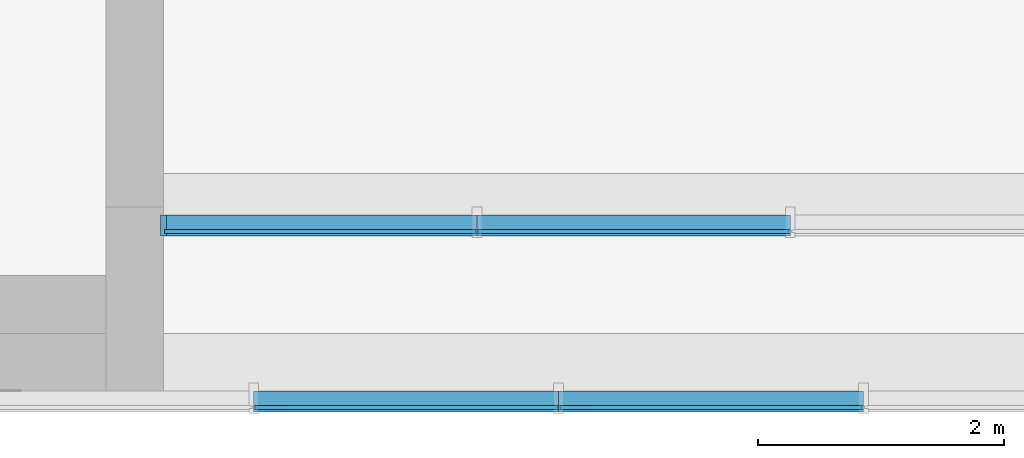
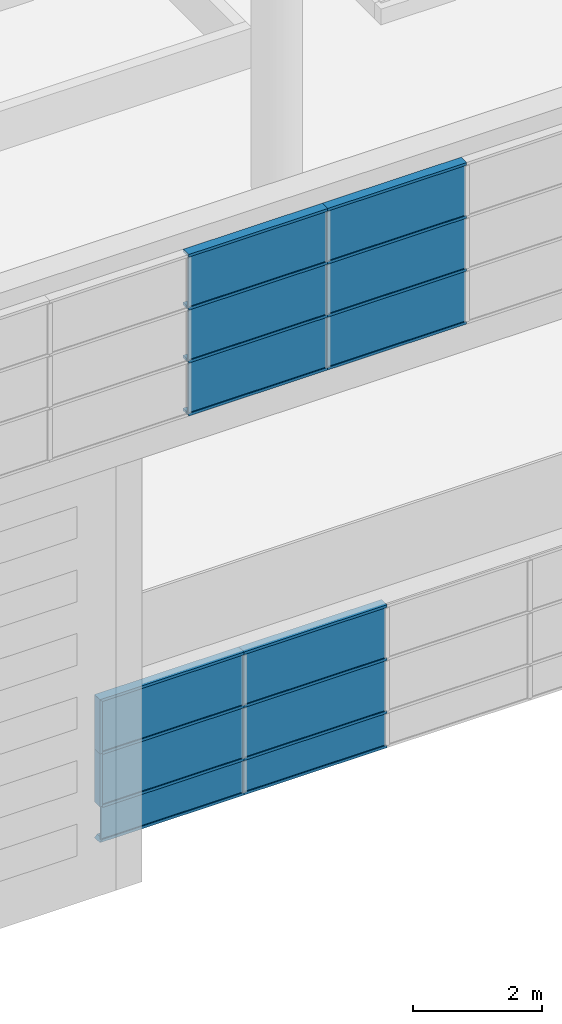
# One storey, part 21 of 105: 30 building element parts, 2 elements without a shape of their own.
"""IFC4 building model written with IfcOpenShell, lengths in millimetres."""

from ifc_helpers import new_model, entity, si_unit, converted_unit, derived_unit, direction, frame, origin_with_axes, place, context, subcontext, project, spatial, triangles, material, element, aggregate, save


model = new_model("IFC4")

# Units and contexts
model_context = context("Model", 3, precision=1e-05, world=origin_with_axes(), true_north=direction((0.0, 1.0)))
body_context = subcontext(model_context, "Body", "Model", "MODEL_VIEW")
ifc_project = project(units=[si_unit("LENGTHUNIT", "METRE", prefix="MILLI"), si_unit("AREAUNIT", "SQUARE_METRE"), si_unit("VOLUMEUNIT", "CUBIC_METRE"), converted_unit("PLANEANGLEUNIT", "DEGREE", entity("IfcLengthMeasure", 0.017453), si_unit("PLANEANGLEUNIT", "RADIAN"), dimensions=[0, 0, 0, 0, 0, 0, 0]), si_unit("SOLIDANGLEUNIT", "STERADIAN"), si_unit("MASSUNIT", "GRAM"), si_unit("TIMEUNIT", "SECOND"), si_unit("THERMODYNAMICTEMPERATUREUNIT", "DEGREE_CELSIUS"), si_unit("LUMINOUSINTENSITYUNIT", "LUMEN"), si_unit("POWERUNIT", "WATT"), derived_unit("THERMALTRANSMITTANCEUNIT", [(si_unit("POWERUNIT", "WATT"), 1), (si_unit("THERMODYNAMICTEMPERATUREUNIT", "KELVIN"), -1), (si_unit("AREAUNIT", "SQUARE_METRE"), -1)])], contexts=[model_context])

# Site, building, storey
site_placement = place(None, origin_with_axes())
site = spatial("IfcSite", under=ifc_project, at=site_placement, Name="Default Site", CompositionType="ELEMENT")
building_placement = place(site_placement, origin_with_axes())
building = spatial("IfcBuilding", under=site, at=building_placement, Name="Default Building", CompositionType="ELEMENT")
storey_placement = place(building_placement, origin_with_axes())
storey = spatial("IfcBuildingStorey", under=building, at=storey_placement, Name="OG - Story", CompositionType="ELEMENT", Elevation=0.0)

# Curtain wall, building element parts
curtain_wall_1_placement = place(storey_placement, origin_with_axes())
curtain_wall_1 = element("IfcCurtainWall", 1, at=curtain_wall_1_placement, inside=storey, Name="Fassade-001", PredefinedType="NOTDEFINED")
ifc_material_1 = material(Name="Normalglas")
building_element_part_1_placement = place(curtain_wall_1_placement, frame((52496.845873, -51289.262838, 0.0), z_axis=(0.0, 0.0, 1.0), x_axis=(1.0, 0.0, 0.0)))
building_element_part_1 = element("IfcBuildingElementPart", 2, at=building_element_part_1_placement, material=ifc_material_1, Name="Normalglas", PredefinedType="NOTDEFINED", context=body_context, shape_type="Tessellation", body=[
    triangles([(1265.455, 15.0, 645.0), (-1270.454, 15.0, 645.0), (-1270.454, -14.999, 645.0), (1265.455, -14.999, 645.0), (1265.455, 15.0, 5.0), (-1270.454, 15.0, 5.0), (-1270.454, -14.999, 5.0), (1265.455, -14.999, 5.0)], [[1, 2, 3], [1, 3, 4], [1, 5, 6], [1, 6, 2], [2, 6, 7], [2, 7, 3], [4, 3, 7], [4, 7, 8], [5, 1, 4], [5, 4, 8], [6, 5, 8], [6, 8, 7]], closed=False),
])
building_element_part_2_placement = place(curtain_wall_1_placement, frame((52496.845873, -51289.262838, 0.0), z_axis=(0.0, 0.0, 1.0), x_axis=(1.0, 0.0, 0.0)))
building_element_part_2 = element("IfcBuildingElementPart", 3, at=building_element_part_2_placement, material=ifc_material_1, Name="Normalglas", PredefinedType="NOTDEFINED", context=body_context, shape_type="Tessellation", body=[
    triangles([(3816.364, 15.0, 645.0), (1285.455, 15.0, 645.0), (1285.455, -14.999, 645.0), (3816.364, -14.999, 645.0), (3816.364, 15.0, 5.0), (1285.455, 15.0, 5.0), (1285.455, -14.999, 5.0), (3816.364, -14.999, 5.0)], [[1, 2, 3], [1, 3, 4], [1, 5, 6], [1, 6, 2], [2, 6, 7], [2, 7, 3], [4, 3, 7], [4, 7, 8], [5, 1, 4], [5, 4, 8], [6, 5, 8], [6, 8, 7]], closed=False),
])
building_element_part_3_placement = place(curtain_wall_1_placement, frame((52496.845873, -51289.262838, 0.0), z_axis=(0.0, 0.0, 1.0), x_axis=(1.0, 0.0, 0.0)))
building_element_part_3 = element("IfcBuildingElementPart", 4, at=building_element_part_3_placement, material=ifc_material_1, Name="Normalglas", PredefinedType="NOTDEFINED", context=body_context, shape_type="Tessellation", body=[
    triangles([(1265.455, 15.0, 1645.0), (-1270.454, 15.0, 1645.0), (-1270.454, -14.999, 1645.0), (1265.455, -14.999, 1645.0), (1265.455, 15.0, 655.0), (-1270.454, 15.0, 655.0), (-1270.454, -14.999, 655.0), (1265.455, -14.999, 655.0)], [[1, 2, 3], [1, 3, 4], [1, 5, 6], [1, 6, 2], [2, 6, 7], [2, 7, 3], [4, 3, 7], [4, 7, 8], [5, 1, 4], [5, 4, 8], [6, 5, 8], [6, 8, 7]], closed=False),
])
building_element_part_4_placement = place(curtain_wall_1_placement, frame((52496.845873, -51289.262838, 0.0), z_axis=(0.0, 0.0, 1.0), x_axis=(1.0, 0.0, 0.0)))
building_element_part_4 = element("IfcBuildingElementPart", 5, at=building_element_part_4_placement, material=ifc_material_1, Name="Normalglas", PredefinedType="NOTDEFINED", context=body_context, shape_type="Tessellation", body=[
    triangles([(3816.364, 15.0, 1645.0), (1285.455, 15.0, 1645.0), (1285.455, -14.999, 1645.0), (3816.364, -14.999, 1645.0), (3816.364, 15.0, 655.0), (1285.455, 15.0, 655.0), (1285.455, -14.999, 655.0), (3816.364, -14.999, 655.0)], [[1, 2, 3], [1, 3, 4], [1, 5, 6], [1, 6, 2], [2, 6, 7], [2, 7, 3], [4, 3, 7], [4, 7, 8], [5, 1, 4], [5, 4, 8], [6, 5, 8], [6, 8, 7]], closed=False),
])
building_element_part_5_placement = place(curtain_wall_1_placement, frame((52496.845873, -51289.262838, 0.0), z_axis=(0.0, 0.0, 1.0), x_axis=(1.0, 0.0, 0.0)))
building_element_part_5 = element("IfcBuildingElementPart", 6, at=building_element_part_5_placement, material=ifc_material_1, Name="Normalglas", PredefinedType="NOTDEFINED", context=body_context, shape_type="Tessellation", body=[
    triangles([(1265.455, 15.0, 2645.0), (-1270.454, 15.0, 2645.0), (-1270.454, -14.999, 2645.0), (1265.455, -14.999, 2645.0), (1265.455, 15.0, 1655.0), (-1270.454, 15.0, 1655.0), (-1270.454, -14.999, 1655.0), (1265.455, -14.999, 1655.0)], [[1, 2, 3], [1, 3, 4], [1, 5, 6], [1, 6, 2], [2, 6, 7], [2, 7, 3], [4, 3, 7], [4, 7, 8], [5, 1, 4], [5, 4, 8], [6, 5, 8], [6, 8, 7]], closed=False),
])
building_element_part_6_placement = place(curtain_wall_1_placement, frame((52496.845873, -51289.262838, 0.0), z_axis=(0.0, 0.0, 1.0), x_axis=(1.0, 0.0, 0.0)))
building_element_part_6 = element("IfcBuildingElementPart", 7, at=building_element_part_6_placement, material=ifc_material_1, Name="Normalglas", PredefinedType="NOTDEFINED", context=body_context, shape_type="Tessellation", body=[
    triangles([(3816.364, 15.0, 2645.0), (1285.455, 15.0, 2645.0), (1285.455, -14.999, 2645.0), (3816.364, -14.999, 2645.0), (3816.364, 15.0, 1655.0), (1285.455, 15.0, 1655.0), (1285.455, -14.999, 1655.0), (3816.364, -14.999, 1655.0)], [[1, 2, 3], [1, 3, 4], [1, 5, 6], [1, 6, 2], [2, 6, 7], [2, 7, 3], [4, 3, 7], [4, 7, 8], [5, 1, 4], [5, 4, 8], [6, 5, 8], [6, 8, 7]], closed=False),
])
ifc_material_2 = material(Name="Blech")
building_element_part_7_placement = place(curtain_wall_1_placement, frame((52496.845873, -51289.262838, 0.0), z_axis=(0.0, 0.0, 1.0), x_axis=(1.0, 0.0, 0.0)))
building_element_part_7 = element("IfcBuildingElementPart", 8, at=building_element_part_7_placement, material=ifc_material_2, Name="Blech", PredefinedType="NOTDEFINED", context=body_context, shape_type="Tessellation", body=[
    triangles([(1275.455, 15.0, 25.0), (1275.455, 133.0, 25.0), (1275.455, 15.0, 5.0), (1275.455, 133.0, -24.999), (1275.455, -14.999, 5.0), (1275.455, -34.999, -24.999), (1275.455, -14.999, 25.0), (1275.455, -34.999, 25.0), (-1270.454, 15.0, 5.0), (-1270.454, -14.999, 5.0), (-1250.454, -14.999, 25.0), (-1250.454, -34.999, 25.0), (-1300.454, -34.999, -24.999), (-1300.454, 133.0, -24.999), (-1250.454, 133.0, 25.0), (-1250.454, 15.0, 25.0)], [[1, 2, 3], [3, 2, 4], [3, 4, 5], [5, 4, 6], [5, 6, 7], [7, 6, 8], [5, 3, 9], [5, 9, 10], [11, 7, 5], [11, 5, 10], [7, 11, 12], [7, 12, 8], [6, 8, 12], [6, 12, 13], [4, 6, 13], [4, 13, 14], [2, 4, 14], [2, 14, 15], [16, 1, 2], [16, 2, 15], [3, 1, 16], [3, 16, 9], [16, 15, 9], [9, 15, 14], [9, 14, 10], [10, 14, 13], [10, 13, 11], [11, 13, 12]], closed=False),
])
building_element_part_8_placement = place(curtain_wall_1_placement, frame((52496.845873, -51289.262838, 0.0), z_axis=(0.0, 0.0, 1.0), x_axis=(1.0, 0.0, 0.0)))
building_element_part_8 = element("IfcBuildingElementPart", 9, at=building_element_part_8_placement, material=ifc_material_2, Name="Blech", PredefinedType="NOTDEFINED", context=body_context, shape_type="Tessellation", body=[
    triangles([(3826.364, 15.0, 25.0), (3826.364, 133.0, 25.0), (3826.364, 15.0, 5.0), (3826.364, 133.0, -24.999), (3826.364, -14.999, 5.0), (3826.364, -34.999, -24.999), (3826.364, -14.999, 25.0), (3826.364, -34.999, 25.0), (1275.455, 15.0, 5.0), (1275.455, -14.999, 5.0), (1275.455, -14.999, 25.0), (1275.455, -34.999, 25.0), (1275.455, -34.999, -24.999), (1275.455, 133.0, -24.999), (1275.455, 133.0, 25.0), (1275.455, 15.0, 25.0)], [[1, 2, 3], [3, 2, 4], [3, 4, 5], [5, 4, 6], [5, 6, 7], [7, 6, 8], [5, 3, 9], [5, 9, 10], [11, 7, 5], [11, 5, 10], [7, 11, 12], [7, 12, 8], [13, 6, 8], [13, 8, 12], [14, 4, 6], [14, 6, 13], [15, 2, 4], [15, 4, 14], [16, 1, 2], [16, 2, 15], [3, 1, 16], [3, 16, 9], [16, 15, 9], [9, 15, 14], [9, 14, 10], [10, 14, 13], [10, 13, 11], [11, 13, 12]], closed=False),
])
building_element_part_9_placement = place(curtain_wall_1_placement, frame((52496.845873, -51289.262838, 0.0), z_axis=(0.0, 0.0, 1.0), x_axis=(1.0, 0.0, 0.0)))
building_element_part_9 = element("IfcBuildingElementPart", 10, at=building_element_part_9_placement, material=ifc_material_2, Name="Blech", PredefinedType="NOTDEFINED", context=body_context, shape_type="Tessellation", body=[
    triangles([(1275.455, 133.0, 675.0), (1275.455, 15.0, 675.0), (1275.455, 133.0, 625.0), (1275.455, 15.0, 655.0), (1275.455, 15.0, 645.0), (1275.455, -14.999, 655.0), (1275.455, -14.999, 645.0), (1275.455, -14.999, 625.0), (1275.455, -14.999, 675.0), (1275.455, -34.999, 675.0), (1275.455, -34.999, 625.0), (1275.455, 15.0, 625.0), (-1250.454, 15.0, 645.0), (-1250.454, 15.0, 625.0), (-1250.454, 133.0, 625.0), (-1250.454, 133.0, 675.0), (-1250.454, 15.0, 675.0), (-1250.454, 15.0, 655.0), (-1250.454, -14.999, 655.0), (-1250.454, -14.999, 675.0), (-1250.454, -34.999, 675.0), (-1250.454, -34.999, 625.0), (-1250.454, -14.999, 625.0), (-1250.454, -14.999, 645.0)], [[1, 2, 3], [3, 2, 4], [3, 4, 5], [5, 4, 6], [5, 6, 7], [8, 9, 10], [8, 10, 11], [3, 5, 12], [12, 5, 13], [12, 13, 14], [12, 14, 15], [12, 15, 3], [3, 15, 16], [3, 16, 1], [2, 1, 16], [2, 16, 17], [2, 17, 18], [2, 18, 4], [4, 18, 19], [4, 19, 6], [9, 6, 19], [9, 19, 20], [20, 21, 10], [20, 10, 9], [10, 21, 22], [10, 22, 11], [23, 8, 11], [23, 11, 22], [7, 8, 23], [7, 23, 24], [5, 7, 24], [5, 24, 13], [15, 14, 16], [16, 14, 13], [16, 13, 18], [18, 13, 24], [18, 24, 19], [20, 23, 22], [20, 22, 21], [16, 18, 17]], closed=False),
])
building_element_part_10_placement = place(curtain_wall_1_placement, frame((52496.845873, -51289.262838, 0.0), z_axis=(0.0, 0.0, 1.0), x_axis=(1.0, 0.0, 0.0)))
building_element_part_10 = element("IfcBuildingElementPart", 11, at=building_element_part_10_placement, material=ifc_material_2, Name="Blech", PredefinedType="NOTDEFINED", context=body_context, shape_type="Tessellation", body=[
    triangles([(-1250.454, 15.0, 1650.0), (-1250.454, 133.0, 1650.0), (-1270.454, 15.0, 1650.0), (-1300.454, 133.0, 1650.0), (-1270.454, -14.999, 1650.0), (-1300.454, -34.999, 1650.0), (-1250.454, -34.999, 1650.0), (-1250.454, -14.999, 1650.0), (-1270.454, 15.0, 650.0), (-1250.454, 15.0, 650.0), (-1250.454, 133.0, 650.0), (-1300.454, 133.0, 650.0), (-1300.454, -34.999, 650.0), (-1250.454, -34.999, 650.0), (-1250.454, -14.999, 650.0), (-1270.454, -14.999, 650.0)], [[1, 2, 3], [3, 2, 4], [3, 4, 5], [5, 4, 6], [5, 6, 7], [5, 7, 8], [3, 9, 10], [3, 10, 1], [10, 11, 2], [10, 2, 1], [11, 12, 4], [11, 4, 2], [12, 13, 6], [12, 6, 4], [13, 14, 7], [13, 7, 6], [8, 7, 14], [8, 14, 15], [15, 16, 5], [15, 5, 8], [5, 16, 9], [5, 9, 3], [16, 9, 12], [16, 12, 13], [16, 13, 14], [16, 14, 15], [11, 12, 9], [11, 9, 10]], closed=False),
])
building_element_part_11_placement = place(curtain_wall_1_placement, frame((52496.845873, -51289.262838, 0.0), z_axis=(0.0, 0.0, 1.0), x_axis=(1.0, 0.0, 0.0)))
building_element_part_11 = element("IfcBuildingElementPart", 12, at=building_element_part_11_placement, material=ifc_material_2, Name="Blech", PredefinedType="NOTDEFINED", context=body_context, shape_type="Tessellation", body=[
    triangles([(3826.364, 133.0, 675.0), (3826.364, 15.0, 675.0), (3826.364, 133.0, 625.0), (3826.364, 15.0, 655.0), (3826.364, 15.0, 645.0), (3826.364, -14.999, 655.0), (3826.364, -14.999, 645.0), (3826.364, -14.999, 625.0), (3826.364, -14.999, 675.0), (3826.364, -34.999, 675.0), (3826.364, -34.999, 625.0), (3826.364, 15.0, 625.0), (1275.455, 15.0, 645.0), (1275.455, 15.0, 625.0), (1275.455, 133.0, 625.0), (1275.455, 133.0, 675.0), (1275.455, 15.0, 675.0), (1275.455, 15.0, 655.0), (1275.455, -14.999, 655.0), (1275.455, -14.999, 675.0), (1275.455, -34.999, 675.0), (1275.455, -34.999, 625.0), (1275.455, -14.999, 625.0), (1275.455, -14.999, 645.0)], [[1, 2, 3], [3, 2, 4], [3, 4, 5], [5, 4, 6], [5, 6, 7], [8, 9, 10], [8, 10, 11], [3, 5, 12], [12, 5, 13], [12, 13, 14], [12, 14, 15], [12, 15, 3], [1, 3, 15], [1, 15, 16], [2, 1, 16], [2, 16, 17], [2, 17, 18], [2, 18, 4], [4, 18, 19], [4, 19, 6], [9, 6, 19], [9, 19, 20], [20, 21, 10], [20, 10, 9], [11, 10, 21], [11, 21, 22], [23, 8, 11], [23, 11, 22], [7, 8, 23], [7, 23, 24], [5, 7, 24], [5, 24, 13], [15, 14, 16], [16, 14, 13], [16, 13, 18], [18, 13, 24], [18, 24, 19], [20, 23, 22], [20, 22, 21], [16, 18, 17]], closed=False),
])
building_element_part_12_placement = place(curtain_wall_1_placement, frame((52496.845873, -51289.262838, 0.0), z_axis=(0.0, 0.0, 1.0), x_axis=(1.0, 0.0, 0.0)))
building_element_part_12 = element("IfcBuildingElementPart", 13, at=building_element_part_12_placement, material=ifc_material_2, Name="Blech", PredefinedType="NOTDEFINED", context=body_context, shape_type="Tessellation", body=[
    triangles([(1275.455, 133.0, 1675.0), (1275.455, 15.0, 1675.0), (1275.455, 133.0, 1625.0), (1275.455, 15.0, 1655.0), (1275.455, 15.0, 1645.0), (1275.455, -14.999, 1655.0), (1275.455, -14.999, 1645.0), (1275.455, -14.999, 1625.0), (1275.455, -14.999, 1675.0), (1275.455, -34.999, 1675.0), (1275.455, -34.999, 1625.0), (1275.455, 15.0, 1625.0), (-1250.454, 15.0, 1645.0), (-1250.454, 15.0, 1625.0), (-1250.454, 133.0, 1625.0), (-1250.454, 133.0, 1675.0), (-1250.454, 15.0, 1675.0), (-1250.454, 15.0, 1655.0), (-1250.454, -14.999, 1655.0), (-1250.454, -14.999, 1675.0), (-1250.454, -34.999, 1675.0), (-1250.454, -34.999, 1625.0), (-1250.454, -14.999, 1625.0), (-1250.454, -14.999, 1645.0)], [[1, 2, 3], [3, 2, 4], [3, 4, 5], [5, 4, 6], [5, 6, 7], [8, 9, 10], [8, 10, 11], [3, 5, 12], [12, 5, 13], [12, 13, 14], [12, 14, 15], [12, 15, 3], [3, 15, 16], [3, 16, 1], [2, 1, 16], [2, 16, 17], [2, 17, 18], [2, 18, 4], [4, 18, 19], [4, 19, 6], [9, 6, 19], [9, 19, 20], [20, 21, 10], [20, 10, 9], [10, 21, 22], [10, 22, 11], [23, 8, 11], [23, 11, 22], [7, 8, 23], [7, 23, 24], [5, 7, 24], [5, 24, 13], [15, 14, 16], [16, 14, 13], [16, 13, 18], [18, 13, 24], [18, 24, 19], [20, 23, 22], [20, 22, 21], [16, 18, 17]], closed=False),
])
building_element_part_13_placement = place(curtain_wall_1_placement, frame((52496.845873, -51289.262838, 0.0), z_axis=(0.0, 0.0, 1.0), x_axis=(1.0, 0.0, 0.0)))
building_element_part_13 = element("IfcBuildingElementPart", 14, at=building_element_part_13_placement, material=ifc_material_2, Name="Blech", PredefinedType="NOTDEFINED", context=body_context, shape_type="Tessellation", body=[
    triangles([(1275.455, 15.0, 2625.0), (1275.455, 133.0, 2625.0), (1275.455, 15.0, 2645.0), (1275.455, 133.0, 2675.0), (1275.455, -14.999, 2645.0), (1275.455, -34.999, 2675.0), (1275.455, -14.999, 2625.0), (1275.455, -34.999, 2625.0), (-1270.454, 15.0, 2645.0), (-1250.454, 15.0, 2625.0), (-1250.454, 133.0, 2625.0), (-1300.454, 133.0, 2675.0), (-1300.454, -34.999, 2675.0), (-1250.454, -34.999, 2625.0), (-1250.454, -14.999, 2625.0), (-1270.454, -14.999, 2645.0)], [[1, 2, 3], [3, 2, 4], [3, 4, 5], [5, 4, 6], [5, 6, 7], [7, 6, 8], [3, 9, 10], [3, 10, 1], [10, 11, 2], [10, 2, 1], [2, 11, 12], [2, 12, 4], [4, 12, 13], [4, 13, 6], [6, 13, 14], [6, 14, 8], [7, 8, 14], [7, 14, 15], [15, 16, 5], [15, 5, 7], [5, 16, 9], [5, 9, 3], [10, 11, 9], [9, 11, 12], [9, 12, 16], [16, 12, 13], [16, 13, 15], [15, 13, 14]], closed=False),
])
building_element_part_14_placement = place(curtain_wall_1_placement, frame((52496.845873, -51289.262838, 0.0), z_axis=(0.0, 0.0, 1.0), x_axis=(1.0, 0.0, 0.0)))
building_element_part_14 = element("IfcBuildingElementPart", 15, at=building_element_part_14_placement, material=ifc_material_2, Name="Blech", PredefinedType="NOTDEFINED", context=body_context, shape_type="Tessellation", body=[
    triangles([(-1250.454, 15.0, 2625.0), (-1250.454, 133.0, 2625.0), (-1270.454, 15.0, 2645.0), (-1300.454, 133.0, 2675.0), (-1270.454, -14.999, 2645.0), (-1300.454, -34.999, 2675.0), (-1250.454, -14.999, 2625.0), (-1250.454, -34.999, 2625.0), (-1270.454, 15.0, 1650.0), (-1250.454, 15.0, 1650.0), (-1250.454, 133.0, 1650.0), (-1300.454, 133.0, 1650.0), (-1300.454, -34.999, 1650.0), (-1250.454, -34.999, 1650.0), (-1250.454, -14.999, 1650.0), (-1270.454, -14.999, 1650.0)], [[1, 2, 3], [3, 2, 4], [3, 4, 5], [5, 4, 6], [5, 6, 7], [7, 6, 8], [3, 9, 10], [3, 10, 1], [10, 11, 2], [10, 2, 1], [11, 12, 4], [11, 4, 2], [12, 13, 6], [12, 6, 4], [13, 14, 8], [13, 8, 6], [7, 8, 14], [7, 14, 15], [15, 16, 5], [15, 5, 7], [5, 16, 9], [5, 9, 3], [16, 9, 12], [16, 12, 13], [16, 13, 14], [16, 14, 15], [11, 12, 9], [11, 9, 10]], closed=False),
])
building_element_part_15_placement = place(curtain_wall_1_placement, frame((52496.845873, -51289.262838, 0.0), z_axis=(0.0, 0.0, 1.0), x_axis=(1.0, 0.0, 0.0)))
building_element_part_15 = element("IfcBuildingElementPart", 16, at=building_element_part_15_placement, material=ifc_material_2, Name="Blech", PredefinedType="NOTDEFINED", context=body_context, shape_type="Tessellation", body=[
    triangles([(3826.364, 133.0, 1675.0), (3826.364, 15.0, 1675.0), (3826.364, 133.0, 1625.0), (3826.364, 15.0, 1655.0), (3826.364, 15.0, 1645.0), (3826.364, -14.999, 1655.0), (3826.364, -14.999, 1645.0), (3826.364, -14.999, 1625.0), (3826.364, -14.999, 1675.0), (3826.364, -34.999, 1675.0), (3826.364, -34.999, 1625.0), (3826.364, 15.0, 1625.0), (1275.455, 15.0, 1645.0), (1275.455, 15.0, 1625.0), (1275.455, 133.0, 1625.0), (1275.455, 133.0, 1675.0), (1275.455, 15.0, 1675.0), (1275.455, 15.0, 1655.0), (1275.455, -14.999, 1655.0), (1275.455, -14.999, 1675.0), (1275.455, -34.999, 1675.0), (1275.455, -34.999, 1625.0), (1275.455, -14.999, 1625.0), (1275.455, -14.999, 1645.0)], [[1, 2, 3], [3, 2, 4], [3, 4, 5], [5, 4, 6], [5, 6, 7], [8, 9, 10], [8, 10, 11], [3, 5, 12], [12, 5, 13], [12, 13, 14], [12, 14, 15], [12, 15, 3], [1, 3, 15], [1, 15, 16], [2, 1, 16], [2, 16, 17], [2, 17, 18], [2, 18, 4], [4, 18, 19], [4, 19, 6], [9, 6, 19], [9, 19, 20], [20, 21, 10], [20, 10, 9], [11, 10, 21], [11, 21, 22], [23, 8, 11], [23, 11, 22], [7, 8, 23], [7, 23, 24], [5, 7, 24], [5, 24, 13], [15, 14, 16], [16, 14, 13], [16, 13, 18], [18, 13, 24], [18, 24, 19], [20, 23, 22], [20, 22, 21], [16, 18, 17]], closed=False),
])
building_element_part_16_placement = place(curtain_wall_1_placement, frame((52496.845873, -51289.262838, 0.0), z_axis=(0.0, 0.0, 1.0), x_axis=(1.0, 0.0, 0.0)))
building_element_part_16 = element("IfcBuildingElementPart", 17, at=building_element_part_16_placement, material=ifc_material_2, Name="Blech", PredefinedType="NOTDEFINED", context=body_context, shape_type="Tessellation", body=[
    triangles([(3826.364, 15.0, 2625.0), (3826.364, 133.0, 2625.0), (3826.364, 15.0, 2645.0), (3826.364, 133.0, 2675.0), (3826.364, -14.999, 2645.0), (3826.364, -34.999, 2675.0), (3826.364, -14.999, 2625.0), (3826.364, -34.999, 2625.0), (1275.455, 15.0, 2645.0), (1275.455, 15.0, 2625.0), (1275.455, 133.0, 2625.0), (1275.455, 133.0, 2675.0), (1275.455, -34.999, 2675.0), (1275.455, -34.999, 2625.0), (1275.455, -14.999, 2625.0), (1275.455, -14.999, 2645.0)], [[1, 2, 3], [3, 2, 4], [3, 4, 5], [5, 4, 6], [5, 6, 7], [7, 6, 8], [3, 9, 10], [3, 10, 1], [10, 11, 2], [10, 2, 1], [11, 12, 4], [11, 4, 2], [12, 13, 6], [12, 6, 4], [13, 14, 8], [13, 8, 6], [7, 8, 14], [7, 14, 15], [15, 16, 5], [15, 5, 7], [5, 16, 9], [5, 9, 3], [10, 11, 9], [9, 11, 12], [9, 12, 16], [16, 12, 13], [16, 13, 15], [15, 13, 14]], closed=False),
])
aggregate(curtain_wall_1, [building_element_part_1, building_element_part_2, building_element_part_3, building_element_part_4, building_element_part_5, building_element_part_6, building_element_part_7, building_element_part_8, building_element_part_9, building_element_part_10, building_element_part_11, building_element_part_12, building_element_part_13, building_element_part_14, building_element_part_15, building_element_part_16])

curtain_wall_2_placement = place(storey_placement, origin_with_axes())
curtain_wall_2 = element("IfcCurtainWall", 18, at=curtain_wall_2_placement, inside=storey, Name="Fassade-002", PredefinedType="NOTDEFINED")
building_element_part_17_placement = place(curtain_wall_2_placement, frame((33339.077852, -52722.262838, 8660.317768), z_axis=(0.0, 0.0, 1.0), x_axis=(1.0, 0.0, 0.0)))
building_element_part_17 = element("IfcBuildingElementPart", 19, at=building_element_part_17_placement, material=ifc_material_1, Name="Normalglas", PredefinedType="NOTDEFINED", context=body_context, shape_type="Tessellation", body=[
    triangles([(21087.789, 15.0, 995.0), (18625.697, 15.0, 995.0), (18625.697, -14.999, 995.0), (21087.789, -14.999, 995.0), (21087.789, 15.0, 5.0), (18625.697, 15.0, 5.0), (18625.697, -14.999, 5.0), (21087.789, -14.999, 5.0)], [[1, 2, 3], [1, 3, 4], [1, 5, 6], [1, 6, 2], [2, 6, 7], [2, 7, 3], [4, 3, 7], [4, 7, 8], [5, 1, 4], [5, 4, 8], [6, 5, 8], [6, 8, 7]], closed=False),
])
building_element_part_18_placement = place(curtain_wall_2_placement, frame((33339.077852, -52722.262838, 8660.317768), z_axis=(0.0, 0.0, 1.0), x_axis=(1.0, 0.0, 0.0)))
building_element_part_18 = element("IfcBuildingElementPart", 20, at=building_element_part_18_placement, material=ifc_material_1, Name="Normalglas", PredefinedType="NOTDEFINED", context=body_context, shape_type="Tessellation", body=[
    triangles([(21087.789, 15.0, 1995.0), (18625.697, 15.0, 1995.0), (18625.697, -14.999, 1995.0), (21087.789, -14.999, 1995.0), (21087.789, 15.0, 1005.0), (18625.697, 15.0, 1005.0), (18625.697, -14.999, 1005.0), (21087.789, -14.999, 1005.0)], [[1, 2, 3], [1, 3, 4], [1, 5, 6], [1, 6, 2], [2, 6, 7], [2, 7, 3], [4, 3, 7], [4, 7, 8], [5, 1, 4], [5, 4, 8], [6, 5, 8], [6, 8, 7]], closed=False),
])
building_element_part_19_placement = place(curtain_wall_2_placement, frame((33339.077852, -52722.262838, 8660.317768), z_axis=(0.0, 0.0, 1.0), x_axis=(1.0, 0.0, 0.0)))
building_element_part_19 = element("IfcBuildingElementPart", 21, at=building_element_part_19_placement, material=ifc_material_1, Name="Normalglas", PredefinedType="NOTDEFINED", context=body_context, shape_type="Tessellation", body=[
    triangles([(21087.789, 15.0, 2995.0), (18625.697, 15.0, 2995.0), (18625.697, -14.999, 2995.0), (21087.789, -14.999, 2995.0), (21087.789, 15.0, 2005.0), (18625.697, 15.0, 2005.0), (18625.697, -14.999, 2005.0), (21087.789, -14.999, 2005.0)], [[1, 2, 3], [1, 3, 4], [1, 5, 6], [1, 6, 2], [2, 6, 7], [2, 7, 3], [4, 3, 7], [4, 7, 8], [5, 1, 4], [5, 4, 8], [6, 5, 8], [6, 8, 7]], closed=False),
])
building_element_part_20_placement = place(curtain_wall_2_placement, frame((33339.077852, -52722.262838, 8660.317768), z_axis=(0.0, 0.0, 1.0), x_axis=(1.0, 0.0, 0.0)))
building_element_part_20 = element("IfcBuildingElementPart", 22, at=building_element_part_20_placement, material=ifc_material_1, Name="Normalglas", PredefinedType="NOTDEFINED", context=body_context, shape_type="Tessellation", body=[
    triangles([(23569.882, 15.0, 995.0), (21107.789, 15.0, 995.0), (21107.789, -14.999, 995.0), (23569.882, -14.999, 995.0), (23569.882, 15.0, 5.0), (21107.789, 15.0, 5.0), (21107.789, -14.999, 5.0), (23569.882, -14.999, 5.0)], [[1, 2, 3], [1, 3, 4], [1, 5, 6], [1, 6, 2], [2, 6, 7], [2, 7, 3], [4, 3, 7], [4, 7, 8], [5, 1, 4], [5, 4, 8], [6, 5, 8], [6, 8, 7]], closed=False),
])
building_element_part_21_placement = place(curtain_wall_2_placement, frame((33339.077852, -52722.262838, 8660.317768), z_axis=(0.0, 0.0, 1.0), x_axis=(1.0, 0.0, 0.0)))
building_element_part_21 = element("IfcBuildingElementPart", 23, at=building_element_part_21_placement, material=ifc_material_1, Name="Normalglas", PredefinedType="NOTDEFINED", context=body_context, shape_type="Tessellation", body=[
    triangles([(23569.882, 15.0, 1995.0), (21107.789, 15.0, 1995.0), (21107.789, -14.999, 1995.0), (23569.882, -14.999, 1995.0), (23569.882, 15.0, 1005.0), (21107.789, 15.0, 1005.0), (21107.789, -14.999, 1005.0), (23569.882, -14.999, 1005.0)], [[1, 2, 3], [1, 3, 4], [1, 5, 6], [1, 6, 2], [2, 6, 7], [2, 7, 3], [4, 3, 7], [4, 7, 8], [5, 1, 4], [5, 4, 8], [6, 5, 8], [6, 8, 7]], closed=False),
])
building_element_part_22_placement = place(curtain_wall_2_placement, frame((33339.077852, -52722.262838, 8660.317768), z_axis=(0.0, 0.0, 1.0), x_axis=(1.0, 0.0, 0.0)))
building_element_part_22 = element("IfcBuildingElementPart", 24, at=building_element_part_22_placement, material=ifc_material_1, Name="Normalglas", PredefinedType="NOTDEFINED", context=body_context, shape_type="Tessellation", body=[
    triangles([(23569.882, 15.0, 2995.0), (21107.789, 15.0, 2995.0), (21107.789, -14.999, 2995.0), (23569.882, -14.999, 2995.0), (23569.882, 15.0, 2005.0), (21107.789, 15.0, 2005.0), (21107.789, -14.999, 2005.0), (23569.882, -14.999, 2005.0)], [[1, 2, 3], [1, 3, 4], [1, 5, 6], [1, 6, 2], [2, 6, 7], [2, 7, 3], [4, 3, 7], [4, 7, 8], [5, 1, 4], [5, 4, 8], [6, 5, 8], [6, 8, 7]], closed=False),
])
building_element_part_23_placement = place(curtain_wall_2_placement, frame((33339.077852, -52722.262838, 8660.317768), z_axis=(0.0, 0.0, 1.0), x_axis=(1.0, 0.0, 0.0)))
building_element_part_23 = element("IfcBuildingElementPart", 25, at=building_element_part_23_placement, material=ifc_material_2, Name="Blech", PredefinedType="NOTDEFINED", context=body_context, shape_type="Tessellation", body=[
    triangles([(21097.789, 15.0, 25.0), (21097.789, 133.0, 25.0), (21097.789, 15.0, 5.0), (21097.789, 133.0, -24.999), (21097.789, -14.999, 5.0), (21097.789, -34.999, -24.999), (21097.789, -14.999, 25.0), (21097.789, -34.999, 25.0), (18615.697, 15.0, 5.0), (18615.697, -14.999, 5.0), (18615.697, -14.999, 25.0), (18615.697, -34.999, 25.0), (18615.697, -34.999, -24.999), (18615.697, 133.0, -24.999), (18615.697, 133.0, 25.0), (18615.697, 15.0, 25.0)], [[1, 2, 3], [3, 2, 4], [3, 4, 5], [5, 4, 6], [5, 6, 7], [7, 6, 8], [5, 3, 9], [5, 9, 10], [11, 7, 5], [11, 5, 10], [7, 11, 12], [7, 12, 8], [13, 6, 8], [13, 8, 12], [14, 4, 6], [14, 6, 13], [15, 2, 4], [15, 4, 14], [16, 1, 2], [16, 2, 15], [3, 1, 16], [3, 16, 9], [16, 15, 9], [9, 15, 14], [9, 14, 10], [10, 14, 13], [10, 13, 11], [11, 13, 12]], closed=False),
])
building_element_part_24_placement = place(curtain_wall_2_placement, frame((33339.077852, -52722.262838, 8660.317768), z_axis=(0.0, 0.0, 1.0), x_axis=(1.0, 0.0, 0.0)))
building_element_part_24 = element("IfcBuildingElementPart", 26, at=building_element_part_24_placement, material=ifc_material_2, Name="Blech", PredefinedType="NOTDEFINED", context=body_context, shape_type="Tessellation", body=[
    triangles([(23579.882, 15.0, 25.0), (23579.882, 133.0, 25.0), (23579.882, 15.0, 5.0), (23579.882, 133.0, -24.999), (23579.882, -14.999, 5.0), (23579.882, -34.999, -24.999), (23579.882, -14.999, 25.0), (23579.882, -34.999, 25.0), (21097.789, 15.0, 5.0), (21097.789, -14.999, 5.0), (21097.789, -14.999, 25.0), (21097.789, -34.999, 25.0), (21097.789, -34.999, -24.999), (21097.789, 133.0, -24.999), (21097.789, 133.0, 25.0), (21097.789, 15.0, 25.0)], [[1, 2, 3], [3, 2, 4], [3, 4, 5], [5, 4, 6], [5, 6, 7], [7, 6, 8], [5, 3, 9], [5, 9, 10], [11, 7, 5], [11, 5, 10], [7, 11, 12], [7, 12, 8], [13, 6, 8], [13, 8, 12], [14, 4, 6], [14, 6, 13], [15, 2, 4], [15, 4, 14], [16, 1, 2], [16, 2, 15], [3, 1, 16], [3, 16, 9], [16, 15, 9], [9, 15, 14], [9, 14, 10], [10, 14, 13], [10, 13, 11], [11, 13, 12]], closed=False),
])
building_element_part_25_placement = place(curtain_wall_2_placement, frame((33339.077852, -52722.262838, 8660.317768), z_axis=(0.0, 0.0, 1.0), x_axis=(1.0, 0.0, 0.0)))
building_element_part_25 = element("IfcBuildingElementPart", 27, at=building_element_part_25_placement, material=ifc_material_2, Name="Blech", PredefinedType="NOTDEFINED", context=body_context, shape_type="Tessellation", body=[
    triangles([(21097.789, 133.0, 1025.0), (21097.789, 15.0, 1025.0), (21097.789, 133.0, 975.0), (21097.789, 15.0, 1005.0), (21097.789, 15.0, 995.0), (21097.789, -14.999, 1005.0), (21097.789, -14.999, 995.0), (21097.789, -14.999, 975.0), (21097.789, -14.999, 1025.0), (21097.789, -34.999, 1025.0), (21097.789, -34.999, 975.0), (21097.789, 15.0, 975.0), (18615.697, 15.0, 995.0), (18615.697, 15.0, 975.0), (18615.697, 133.0, 975.0), (18615.697, 133.0, 1025.0), (18615.697, 15.0, 1025.0), (18615.697, 15.0, 1005.0), (18615.697, -14.999, 1005.0), (18615.697, -14.999, 1025.0), (18615.697, -34.999, 1025.0), (18615.697, -34.999, 975.0), (18615.697, -14.999, 975.0), (18615.697, -14.999, 995.0)], [[1, 2, 3], [3, 2, 4], [3, 4, 5], [5, 4, 6], [5, 6, 7], [8, 9, 10], [8, 10, 11], [3, 5, 12], [12, 5, 13], [12, 13, 14], [12, 14, 15], [12, 15, 3], [1, 3, 15], [1, 15, 16], [2, 1, 16], [2, 16, 17], [2, 17, 18], [2, 18, 4], [4, 18, 19], [4, 19, 6], [9, 6, 19], [9, 19, 20], [20, 21, 10], [20, 10, 9], [11, 10, 21], [11, 21, 22], [23, 8, 11], [23, 11, 22], [7, 8, 23], [7, 23, 24], [5, 7, 24], [5, 24, 13], [15, 14, 16], [16, 14, 13], [16, 13, 18], [18, 13, 24], [18, 24, 19], [20, 23, 22], [20, 22, 21], [16, 18, 17]], closed=False),
])
building_element_part_26_placement = place(curtain_wall_2_placement, frame((33339.077852, -52722.262838, 8660.317768), z_axis=(0.0, 0.0, 1.0), x_axis=(1.0, 0.0, 0.0)))
building_element_part_26 = element("IfcBuildingElementPart", 28, at=building_element_part_26_placement, material=ifc_material_2, Name="Blech", PredefinedType="NOTDEFINED", context=body_context, shape_type="Tessellation", body=[
    triangles([(23579.882, 133.0, 1025.0), (23579.882, 15.0, 1025.0), (23579.882, 133.0, 975.0), (23579.882, 15.0, 1005.0), (23579.882, 15.0, 995.0), (23579.882, -14.999, 1005.0), (23579.882, -14.999, 995.0), (23579.882, -14.999, 975.0), (23579.882, -14.999, 1025.0), (23579.882, -34.999, 1025.0), (23579.882, -34.999, 975.0), (23579.882, 15.0, 975.0), (21097.789, 15.0, 995.0), (21097.789, 15.0, 975.0), (21097.789, 133.0, 975.0), (21097.789, 133.0, 1025.0), (21097.789, 15.0, 1025.0), (21097.789, 15.0, 1005.0), (21097.789, -14.999, 1005.0), (21097.789, -14.999, 1025.0), (21097.789, -34.999, 1025.0), (21097.789, -34.999, 975.0), (21097.789, -14.999, 975.0), (21097.789, -14.999, 995.0)], [[1, 2, 3], [3, 2, 4], [3, 4, 5], [5, 4, 6], [5, 6, 7], [8, 9, 10], [8, 10, 11], [3, 5, 12], [12, 5, 13], [12, 13, 14], [12, 14, 15], [12, 15, 3], [1, 3, 15], [1, 15, 16], [2, 1, 16], [2, 16, 17], [2, 17, 18], [2, 18, 4], [4, 18, 19], [4, 19, 6], [9, 6, 19], [9, 19, 20], [20, 21, 10], [20, 10, 9], [11, 10, 21], [11, 21, 22], [23, 8, 11], [23, 11, 22], [7, 8, 23], [7, 23, 24], [5, 7, 24], [5, 24, 13], [15, 14, 16], [16, 14, 13], [16, 13, 18], [18, 13, 24], [18, 24, 19], [20, 23, 22], [20, 22, 21], [16, 18, 17]], closed=False),
])
building_element_part_27_placement = place(curtain_wall_2_placement, frame((33339.077852, -52722.262838, 8660.317768), z_axis=(0.0, 0.0, 1.0), x_axis=(1.0, 0.0, 0.0)))
building_element_part_27 = element("IfcBuildingElementPart", 29, at=building_element_part_27_placement, material=ifc_material_2, Name="Blech", PredefinedType="NOTDEFINED", context=body_context, shape_type="Tessellation", body=[
    triangles([(21097.789, 133.0, 2025.0), (21097.789, 15.0, 2025.0), (21097.789, 133.0, 1975.0), (21097.789, 15.0, 2005.0), (21097.789, 15.0, 1995.0), (21097.789, -14.999, 2005.0), (21097.789, -14.999, 1995.0), (21097.789, -14.999, 1975.0), (21097.789, -14.999, 2025.0), (21097.789, -34.999, 2025.0), (21097.789, -34.999, 1975.0), (21097.789, 15.0, 1975.0), (18615.697, 15.0, 1995.0), (18615.697, 15.0, 1975.0), (18615.697, 133.0, 1975.0), (18615.697, 133.0, 2025.0), (18615.697, 15.0, 2025.0), (18615.697, 15.0, 2005.0), (18615.697, -14.999, 2005.0), (18615.697, -14.999, 2025.0), (18615.697, -34.999, 2025.0), (18615.697, -34.999, 1975.0), (18615.697, -14.999, 1975.0), (18615.697, -14.999, 1995.0)], [[1, 2, 3], [3, 2, 4], [3, 4, 5], [5, 4, 6], [5, 6, 7], [8, 9, 10], [8, 10, 11], [3, 5, 12], [12, 5, 13], [12, 13, 14], [12, 14, 15], [12, 15, 3], [1, 3, 15], [1, 15, 16], [2, 1, 16], [2, 16, 17], [2, 17, 18], [2, 18, 4], [4, 18, 19], [4, 19, 6], [9, 6, 19], [9, 19, 20], [20, 21, 10], [20, 10, 9], [11, 10, 21], [11, 21, 22], [23, 8, 11], [23, 11, 22], [7, 8, 23], [7, 23, 24], [5, 7, 24], [5, 24, 13], [15, 14, 16], [16, 14, 13], [16, 13, 18], [18, 13, 24], [18, 24, 19], [20, 23, 22], [20, 22, 21], [16, 18, 17]], closed=False),
])
building_element_part_28_placement = place(curtain_wall_2_placement, frame((33339.077852, -52722.262838, 8660.317768), z_axis=(0.0, 0.0, 1.0), x_axis=(1.0, 0.0, 0.0)))
building_element_part_28 = element("IfcBuildingElementPart", 30, at=building_element_part_28_placement, material=ifc_material_2, Name="Blech", PredefinedType="NOTDEFINED", context=body_context, shape_type="Tessellation", body=[
    triangles([(23579.882, 133.0, 2025.0), (23579.882, 15.0, 2025.0), (23579.882, 133.0, 1975.0), (23579.882, 15.0, 2005.0), (23579.882, 15.0, 1995.0), (23579.882, -14.999, 2005.0), (23579.882, -14.999, 1995.0), (23579.882, -14.999, 1975.0), (23579.882, -14.999, 2025.0), (23579.882, -34.999, 2025.0), (23579.882, -34.999, 1975.0), (23579.882, 15.0, 1975.0), (21097.789, 15.0, 1995.0), (21097.789, 15.0, 1975.0), (21097.789, 133.0, 1975.0), (21097.789, 133.0, 2025.0), (21097.789, 15.0, 2025.0), (21097.789, 15.0, 2005.0), (21097.789, -14.999, 2005.0), (21097.789, -14.999, 2025.0), (21097.789, -34.999, 2025.0), (21097.789, -34.999, 1975.0), (21097.789, -14.999, 1975.0), (21097.789, -14.999, 1995.0)], [[1, 2, 3], [3, 2, 4], [3, 4, 5], [5, 4, 6], [5, 6, 7], [8, 9, 10], [8, 10, 11], [3, 5, 12], [12, 5, 13], [12, 13, 14], [12, 14, 15], [12, 15, 3], [1, 3, 15], [1, 15, 16], [2, 1, 16], [2, 16, 17], [2, 17, 18], [2, 18, 4], [4, 18, 19], [4, 19, 6], [9, 6, 19], [9, 19, 20], [20, 21, 10], [20, 10, 9], [11, 10, 21], [11, 21, 22], [23, 8, 11], [23, 11, 22], [7, 8, 23], [7, 23, 24], [5, 7, 24], [5, 24, 13], [15, 14, 16], [16, 14, 13], [16, 13, 18], [18, 13, 24], [18, 24, 19], [20, 23, 22], [20, 22, 21], [16, 18, 17]], closed=False),
])
building_element_part_29_placement = place(curtain_wall_2_placement, frame((33339.077852, -52722.262838, 8660.317768), z_axis=(0.0, 0.0, 1.0), x_axis=(1.0, 0.0, 0.0)))
building_element_part_29 = element("IfcBuildingElementPart", 31, at=building_element_part_29_placement, material=ifc_material_2, Name="Blech", PredefinedType="NOTDEFINED", context=body_context, shape_type="Tessellation", body=[
    triangles([(21097.789, 15.0, 2975.0), (21097.789, 133.0, 2975.0), (21097.789, 15.0, 2995.0), (21097.789, 133.0, 3025.0), (21097.789, -14.999, 2995.0), (21097.789, -34.999, 3025.0), (21097.789, -14.999, 2975.0), (21097.789, -34.999, 2975.0), (18615.697, 15.0, 2995.0), (18615.697, 15.0, 2975.0), (18615.697, 133.0, 2975.0), (18615.697, 133.0, 3025.0), (18615.697, -34.999, 3025.0), (18615.697, -34.999, 2975.0), (18615.697, -14.999, 2975.0), (18615.697, -14.999, 2995.0)], [[1, 2, 3], [3, 2, 4], [3, 4, 5], [5, 4, 6], [5, 6, 7], [7, 6, 8], [3, 9, 10], [3, 10, 1], [10, 11, 2], [10, 2, 1], [11, 12, 4], [11, 4, 2], [12, 13, 6], [12, 6, 4], [13, 14, 8], [13, 8, 6], [7, 8, 14], [7, 14, 15], [15, 16, 5], [15, 5, 7], [5, 16, 9], [5, 9, 3], [10, 11, 9], [9, 11, 12], [9, 12, 16], [16, 12, 13], [16, 13, 15], [15, 13, 14]], closed=False),
])
building_element_part_30_placement = place(curtain_wall_2_placement, frame((33339.077852, -52722.262838, 8660.317768), z_axis=(0.0, 0.0, 1.0), x_axis=(1.0, 0.0, 0.0)))
building_element_part_30 = element("IfcBuildingElementPart", 32, at=building_element_part_30_placement, material=ifc_material_2, Name="Blech", PredefinedType="NOTDEFINED", context=body_context, shape_type="Tessellation", body=[
    triangles([(23579.882, 15.0, 2975.0), (23579.882, 133.0, 2975.0), (23579.882, 15.0, 2995.0), (23579.882, 133.0, 3025.0), (23579.882, -14.999, 2995.0), (23579.882, -34.999, 3025.0), (23579.882, -14.999, 2975.0), (23579.882, -34.999, 2975.0), (21097.789, 15.0, 2995.0), (21097.789, 15.0, 2975.0), (21097.789, 133.0, 2975.0), (21097.789, 133.0, 3025.0), (21097.789, -34.999, 3025.0), (21097.789, -34.999, 2975.0), (21097.789, -14.999, 2975.0), (21097.789, -14.999, 2995.0)], [[1, 2, 3], [3, 2, 4], [3, 4, 5], [5, 4, 6], [5, 6, 7], [7, 6, 8], [3, 9, 10], [3, 10, 1], [10, 11, 2], [10, 2, 1], [11, 12, 4], [11, 4, 2], [12, 13, 6], [12, 6, 4], [13, 14, 8], [13, 8, 6], [7, 8, 14], [7, 14, 15], [15, 16, 5], [15, 5, 7], [5, 16, 9], [5, 9, 3], [10, 11, 9], [9, 11, 12], [9, 12, 16], [16, 12, 13], [16, 13, 15], [15, 13, 14]], closed=False),
])
aggregate(curtain_wall_2, [building_element_part_17, building_element_part_18, building_element_part_19, building_element_part_20, building_element_part_21, building_element_part_22, building_element_part_23, building_element_part_24, building_element_part_25, building_element_part_26, building_element_part_27, building_element_part_28, building_element_part_29, building_element_part_30])

save(model, "model.ifc")
